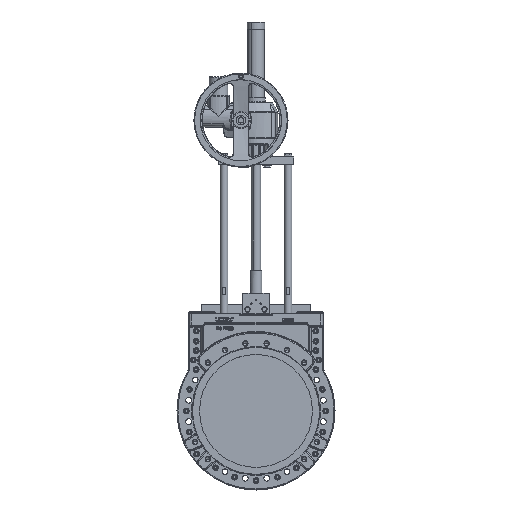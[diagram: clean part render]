
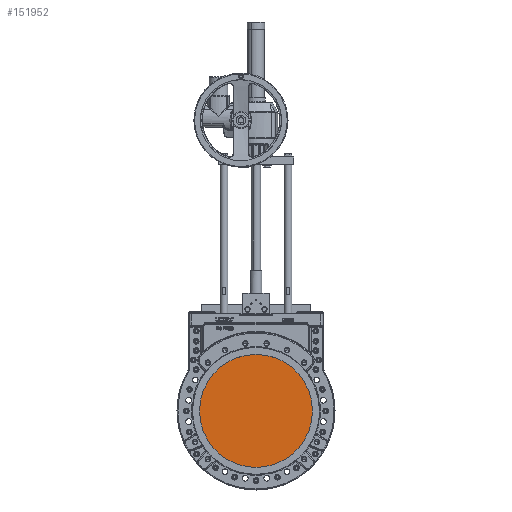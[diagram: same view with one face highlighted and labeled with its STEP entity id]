
A CAD part, top view. The second image highlights one B-rep face of the part: STEP entity #151952.
In plain terms, the highlighted planar face has unit normal (0, 0, 1).
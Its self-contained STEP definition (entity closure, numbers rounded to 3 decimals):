
#1097 = AXIS2_PLACEMENT_3D ( 'NONE', #153706, #56650, #170044 ) ;
#28931 = CARTESIAN_POINT ( 'NONE',  ( -300., 0., -0.25 ) ) ;
#30019 = DIRECTION ( 'NONE',  ( 0., 0., 1. ) ) ;
#30578 = AXIS2_PLACEMENT_3D ( 'NONE', #140739, #30019, #143503 ) ;
#36742 = AXIS2_PLACEMENT_3D ( 'NONE', #186062, #89035, #202392 ) ;
#40117 = VERTEX_POINT ( 'NONE', #88042 ) ;
#56650 = DIRECTION ( 'NONE',  ( 0., 0., 1. ) ) ;
#87065 = EDGE_CURVE ( 'NONE', #171267, #40117, #114538, .T. ) ;
#88042 = CARTESIAN_POINT ( 'NONE',  ( 300., 0., -0.25 ) ) ;
#89035 = DIRECTION ( 'NONE',  ( 0., 0., 1. ) ) ;
#90861 = ORIENTED_EDGE ( 'NONE', *, *, #121843, .T. ) ;
#104051 = ORIENTED_EDGE ( 'NONE', *, *, #87065, .T. ) ;
#106335 = FACE_OUTER_BOUND ( 'NONE', #133807, .T. ) ;
#114538 = CIRCLE ( 'NONE', #36742, 300. ) ;
#121843 = EDGE_CURVE ( 'NONE', #40117, #171267, #166389, .T. ) ;
#133807 = EDGE_LOOP ( 'NONE', ( #104051, #90861 ) ) ;
#140739 = CARTESIAN_POINT ( 'NONE',  ( 0., 0., -0.25 ) ) ;
#143503 = DIRECTION ( 'NONE',  ( 1., 0., 0. ) ) ;
#151952 = ADVANCED_FACE ( 'NONE', ( #106335 ), #207989, .T. ) ;
#153706 = CARTESIAN_POINT ( 'NONE',  ( 0., 0., -0.25 ) ) ;
#166389 = CIRCLE ( 'NONE', #1097, 300. ) ;
#170044 = DIRECTION ( 'NONE',  ( 1., 0., 0. ) ) ;
#171267 = VERTEX_POINT ( 'NONE', #28931 ) ;
#186062 = CARTESIAN_POINT ( 'NONE',  ( 0., 0., -0.25 ) ) ;
#202392 = DIRECTION ( 'NONE',  ( 1., 0., 0. ) ) ;
#207989 = PLANE ( 'NONE',  #30578 ) ;
